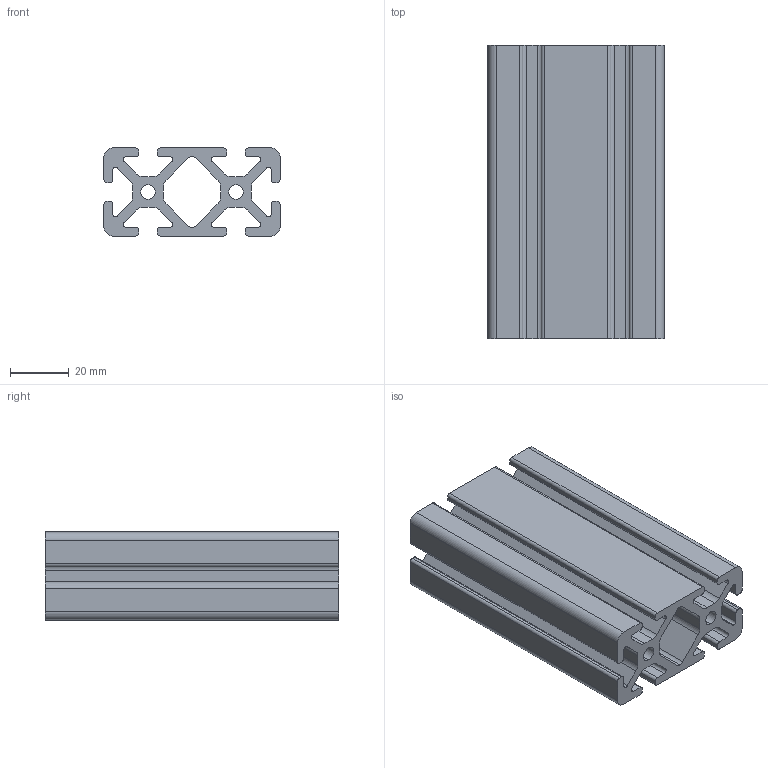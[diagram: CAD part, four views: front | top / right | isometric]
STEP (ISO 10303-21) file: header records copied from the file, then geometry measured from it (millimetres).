
FILE_DESCRIPTION (( 'STEP AP203' ), '1' );
FILE_NAME ('0106P6030S.STEP', '2024-02-27T14:18:35', ( 'Windows-Benutzer' ), ( '' ), 'SwSTEP 2.0', 'SolidWorks 2023', '' );
FILE_SCHEMA (( 'CONFIG_CONTROL_DESIGN' ));
Length unit declared in the file: millimetre
Products named in the file (1): 0106P6030S
Bounding box: 60 x 100 x 30 mm (x, y, z)
Volume: 81980.2 mm3; surface area: 47815.7 mm2
Topology: 1 solids, 1 shells, 125 faces, 369 edges, 246 vertices
Faces by surface type: cylinder 65, plane 60
Entity records: 4302 total; most frequent: DIRECTION 751, CARTESIAN_POINT 741, ORIENTED_EDGE 738, EDGE_CURVE 369, AXIS2_PLACEMENT_3D 256, VERTEX_POINT 246, LINE 239, VECTOR 239
